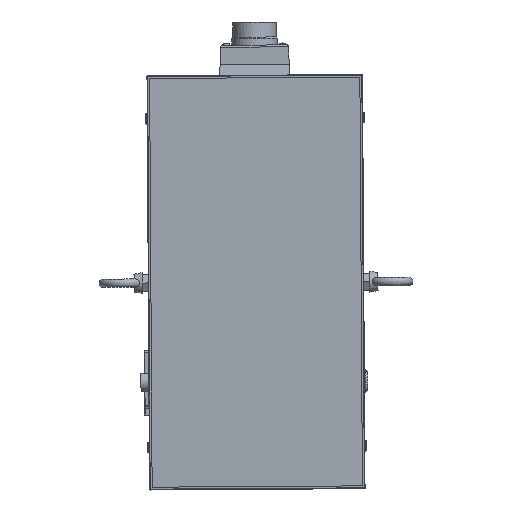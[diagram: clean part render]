
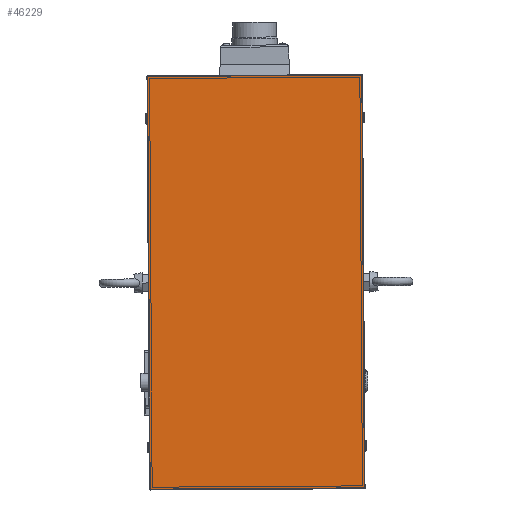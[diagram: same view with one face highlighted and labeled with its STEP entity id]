
A CAD part, top view. The second image highlights one B-rep face of the part: STEP entity #46229.
In plain terms, the highlighted planar face has unit normal (0, 0, 1).
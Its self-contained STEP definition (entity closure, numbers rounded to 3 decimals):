
#2022=PLANE('',#50372);
#4733=LINE('',#87633,#8055);
#4734=LINE('',#87635,#8056);
#4735=LINE('',#87637,#8057);
#4736=LINE('',#87638,#8058);
#8055=VECTOR('',#61022,10.);
#8056=VECTOR('',#61023,10.);
#8057=VECTOR('',#61024,10.);
#8058=VECTOR('',#61025,10.);
#11504=FACE_OUTER_BOUND('',#14222,.T.);
#14222=EDGE_LOOP('',(#38416,#38417,#38418,#38419));
#21129=VERTEX_POINT('',#87631);
#21130=VERTEX_POINT('',#87632);
#21131=VERTEX_POINT('',#87634);
#21132=VERTEX_POINT('',#87636);
#27124=EDGE_CURVE('',#21129,#21130,#4733,.T.);
#27125=EDGE_CURVE('',#21131,#21129,#4734,.T.);
#27126=EDGE_CURVE('',#21132,#21131,#4735,.T.);
#27127=EDGE_CURVE('',#21130,#21132,#4736,.T.);
#38416=ORIENTED_EDGE('',*,*,#27124,.F.);
#38417=ORIENTED_EDGE('',*,*,#27125,.F.);
#38418=ORIENTED_EDGE('',*,*,#27126,.F.);
#38419=ORIENTED_EDGE('',*,*,#27127,.F.);
#46229=ADVANCED_FACE('',(#11504),#2022,.T.);
#50372=AXIS2_PLACEMENT_3D('',#87630,#61020,#61021);
#61020=DIRECTION('center_axis',(0.,0.,
1.));
#61021=DIRECTION('ref_axis',(-0.006,1.,0.));
#61022=DIRECTION('',(0.006,-1.,0.));
#61023=DIRECTION('',(1.,0.006,0.));
#61024=DIRECTION('',(-0.006,1.,0.));
#61025=DIRECTION('',(-1.,-0.006,0.));
#87630=CARTESIAN_POINT('Origin',(-81.415,230.505,660.));
#87631=CARTESIAN_POINT('',(80.072,232.996,660.));
#87632=CARTESIAN_POINT('',(81.998,-80.999,660.));
#87633=CARTESIAN_POINT('',(80.082,231.496,660.));
#87634=CARTESIAN_POINT('',(-82.925,231.996,660.));
#87635=CARTESIAN_POINT('',(-41.425,232.25,660.));
#87636=CARTESIAN_POINT('',(-80.999,-81.998,660.));
#87637=CARTESIAN_POINT('',(-82.915,230.496,660.));
#87638=CARTESIAN_POINT('',(-39.499,-81.744,660.));
